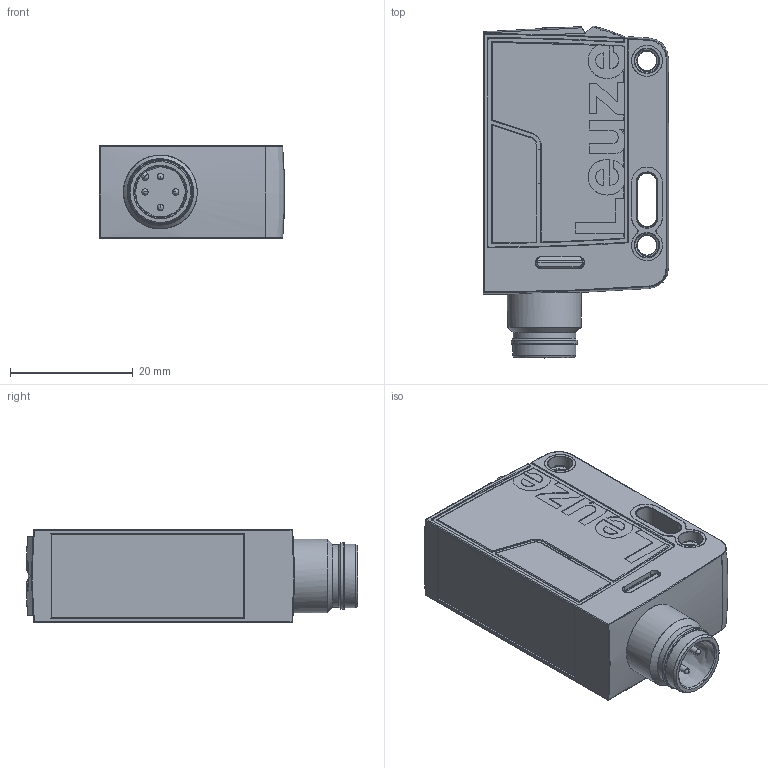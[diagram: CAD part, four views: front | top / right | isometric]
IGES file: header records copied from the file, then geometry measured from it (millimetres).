
Global section: file name: E:\lem\3DCAD_SR25C_M12.igs; native system: NX V8.5; preprocessor: SIEMENS PLM Software NX 8.5; date: 20170308.111401; units: millimetre
Bounding box: 30.1 x 53.99 x 15.2 mm (x, y, z)
Surface area: 6427.6 mm2 (no closed solid volume)
Topology: 0 solids, 0 shells, 600 faces, 3392 edges, 3328 vertices
Faces by surface type: bspline 600
